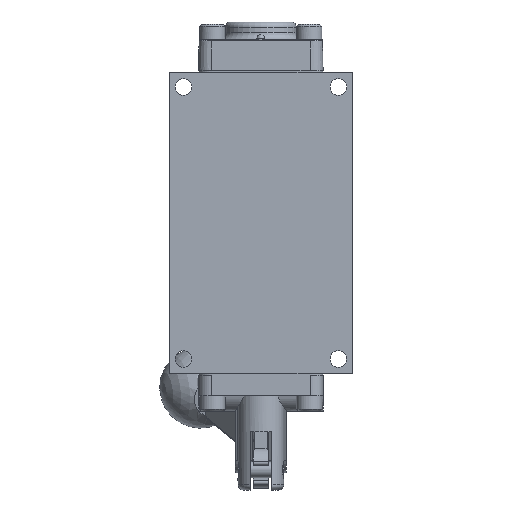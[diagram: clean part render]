
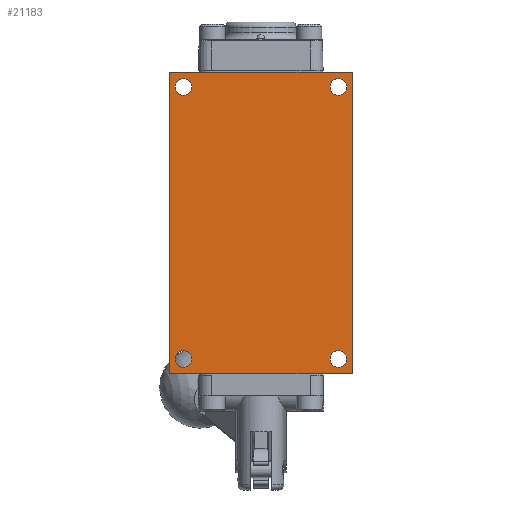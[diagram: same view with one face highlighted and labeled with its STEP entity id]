
A CAD part, front view. The second image highlights one B-rep face of the part: STEP entity #21183.
In plain terms, the highlighted planar face has unit normal (0, -1, 0).
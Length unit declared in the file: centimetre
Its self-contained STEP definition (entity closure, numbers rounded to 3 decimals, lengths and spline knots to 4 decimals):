
#833=FACE_BOUND('',#2587,.T.);
#834=FACE_BOUND('',#2588,.T.);
#835=FACE_BOUND('',#2589,.T.);
#836=FACE_BOUND('',#2590,.T.);
#1299=FACE_OUTER_BOUND('',#2586,.T.);
#2586=EDGE_LOOP('',(#14982,#14983,#14984,#14985));
#2587=EDGE_LOOP('',(#14986));
#2588=EDGE_LOOP('',(#14987));
#2589=EDGE_LOOP('',(#14988));
#2590=EDGE_LOOP('',(#14989));
#3740=CIRCLE('',#22552,0.2578);
#3741=CIRCLE('',#22554,0.2578);
#3742=CIRCLE('',#22556,0.2578);
#3743=CIRCLE('',#22558,0.2578);
#5102=LINE('',#30405,#6638);
#5112=LINE('',#30441,#6648);
#5330=LINE('',#31396,#6866);
#5572=LINE('',#32820,#7108);
#6638=VECTOR('',#24530,1.);
#6648=VECTOR('',#24558,1.);
#6866=VECTOR('',#24946,1.);
#7108=VECTOR('',#25338,1.);
#8209=VERTEX_POINT('',#30402);
#8210=VERTEX_POINT('',#30404);
#8226=VERTEX_POINT('',#30438);
#8227=VERTEX_POINT('',#30440);
#8752=VERTEX_POINT('',#33624);
#8753=VERTEX_POINT('',#33628);
#8754=VERTEX_POINT('',#33632);
#8755=VERTEX_POINT('',#33636);
#10198=EDGE_CURVE('',#8209,#8210,#5102,.T.);
#10215=EDGE_CURVE('',#8226,#8227,#5112,.T.);
#10496=EDGE_CURVE('',#8227,#8209,#5330,.T.);
#10832=EDGE_CURVE('',#8210,#8226,#5572,.T.);
#11004=EDGE_CURVE('',#8752,#8752,#3740,.T.);
#11006=EDGE_CURVE('',#8753,#8753,#3741,.T.);
#11008=EDGE_CURVE('',#8754,#8754,#3742,.T.);
#11010=EDGE_CURVE('',#8755,#8755,#3743,.T.);
#14982=ORIENTED_EDGE('',*,*,#10496,.F.);
#14983=ORIENTED_EDGE('',*,*,#10215,.F.);
#14984=ORIENTED_EDGE('',*,*,#10832,.F.);
#14985=ORIENTED_EDGE('',*,*,#10198,.F.);
#14986=ORIENTED_EDGE('',*,*,#11004,.T.);
#14987=ORIENTED_EDGE('',*,*,#11006,.T.);
#14988=ORIENTED_EDGE('',*,*,#11008,.T.);
#14989=ORIENTED_EDGE('',*,*,#11010,.T.);
#19241=PLANE('',#22584);
#21183=ADVANCED_FACE('',(#1299,#833,#834,#835,#836),#19241,.F.);
#22552=AXIS2_PLACEMENT_3D('',#33626,#25702,#25703);
#22554=AXIS2_PLACEMENT_3D('',#33630,#25707,#25708);
#22556=AXIS2_PLACEMENT_3D('',#33634,#25712,#25713);
#22558=AXIS2_PLACEMENT_3D('',#33638,#25717,#25718);
#22584=AXIS2_PLACEMENT_3D('',#33689,#25784,#25785);
#24530=DIRECTION('',(1.,0.,0.));
#24558=DIRECTION('',(-1.,0.,0.));
#24946=DIRECTION('',(0.,0.,1.));
#25338=DIRECTION('',(0.,0.,-1.));
#25702=DIRECTION('center_axis',(0.,1.,0.));
#25703=DIRECTION('ref_axis',(-1.,0.,0.));
#25707=DIRECTION('center_axis',(0.,1.,0.));
#25708=DIRECTION('ref_axis',(-1.,0.,0.));
#25712=DIRECTION('center_axis',(0.,1.,0.));
#25713=DIRECTION('ref_axis',(-1.,0.,0.));
#25717=DIRECTION('center_axis',(0.,1.,0.));
#25718=DIRECTION('ref_axis',(-1.,0.,0.));
#25784=DIRECTION('center_axis',(0.,1.,0.));
#25785=DIRECTION('ref_axis',(0.,0.,1.));
#30402=CARTESIAN_POINT('',(-2.8575,-1.6358,4.7104));
#30404=CARTESIAN_POINT('',(2.8575,-1.6358,4.7104));
#30405=CARTESIAN_POINT('',(-2.8575,-1.6358,4.7104));
#30438=CARTESIAN_POINT('',(2.8575,-1.6358,-4.7104));
#30440=CARTESIAN_POINT('',(-2.8575,-1.6358,-4.7104));
#30441=CARTESIAN_POINT('',(2.8575,-1.6358,-4.7104));
#31396=CARTESIAN_POINT('',(-2.8575,-1.6358,-4.7104));
#32820=CARTESIAN_POINT('',(2.8575,-1.6358,4.7104));
#33624=CARTESIAN_POINT('',(-2.1628,-1.6358,-4.2469));
#33626=CARTESIAN_POINT('Origin',(-2.4206,-1.6358,-4.2469));
#33628=CARTESIAN_POINT('',(-2.1628,-1.6358,4.2469));
#33630=CARTESIAN_POINT('Origin',(-2.4206,-1.6358,4.2469));
#33632=CARTESIAN_POINT('',(2.6784,-1.6358,-4.2469));
#33634=CARTESIAN_POINT('Origin',(2.4206,-1.6358,-4.2469));
#33636=CARTESIAN_POINT('',(2.6784,-1.6358,4.2469));
#33638=CARTESIAN_POINT('Origin',(2.4206,-1.6358,4.2469));
#33689=CARTESIAN_POINT('Origin',(0.,-1.6358,0.));
